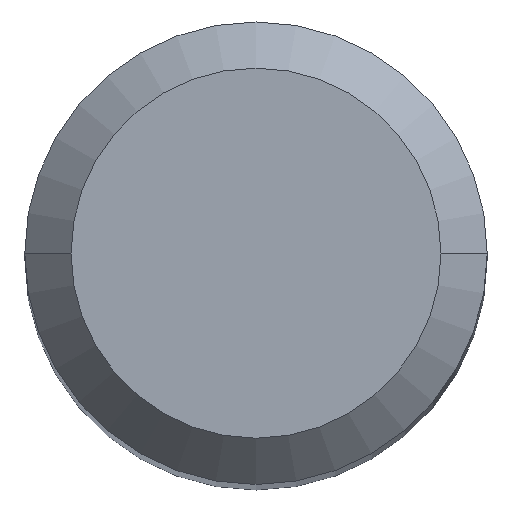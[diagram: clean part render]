
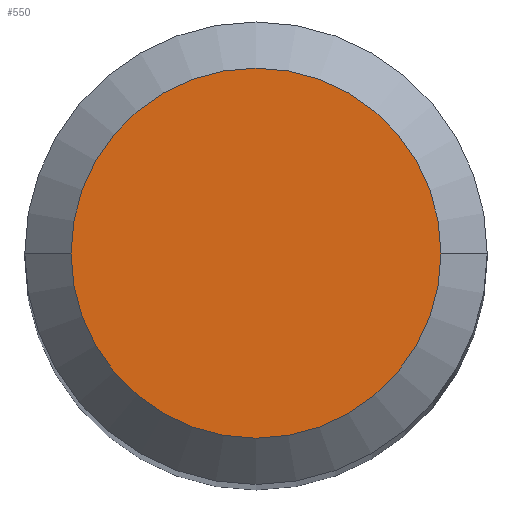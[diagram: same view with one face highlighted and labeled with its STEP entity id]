
A CAD part, top view. The second image highlights one B-rep face of the part: STEP entity #550.
In plain terms, the highlighted planar face has unit normal (0, 0, 1).
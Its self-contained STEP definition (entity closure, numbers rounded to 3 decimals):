
#15 = DIRECTION ( 'NONE',  ( -1., 0., 0. ) ) ;
#54 = CARTESIAN_POINT ( 'NONE',  ( 0., 0., 0. ) ) ;
#103 = CIRCLE ( 'NONE', #266, 2.4 ) ;
#115 = PLANE ( 'NONE',  #222 ) ;
#222 = AXIS2_PLACEMENT_3D ( 'NONE', #317, #314, #312 ) ;
#244 = EDGE_CURVE ( 'NONE', #298, #494, #103, .T. ) ;
#266 = AXIS2_PLACEMENT_3D ( 'NONE', #456, #615, #507 ) ;
#298 = VERTEX_POINT ( 'NONE', #468 ) ;
#312 = DIRECTION ( 'NONE',  ( 1., 0., 0. ) ) ;
#314 = DIRECTION ( 'NONE',  ( 0., 0., 1. ) ) ;
#317 = CARTESIAN_POINT ( 'NONE',  ( 0., 2.4, 0. ) ) ;
#346 = ORIENTED_EDGE ( 'NONE', *, *, #353, .F. ) ;
#353 = EDGE_CURVE ( 'NONE', #494, #298, #397, .T. ) ;
#397 = CIRCLE ( 'NONE', #457, 2.4 ) ;
#456 = CARTESIAN_POINT ( 'NONE',  ( 0., 0., 0. ) ) ;
#457 = AXIS2_PLACEMENT_3D ( 'NONE', #54, #482, #15 ) ;
#468 = CARTESIAN_POINT ( 'NONE',  ( -2.4, 0., 0. ) ) ;
#482 = DIRECTION ( 'NONE',  ( 0., 0., -1. ) ) ;
#494 = VERTEX_POINT ( 'NONE', #539 ) ;
#507 = DIRECTION ( 'NONE',  ( -1., 0., 0. ) ) ;
#539 = CARTESIAN_POINT ( 'NONE',  ( 2.4, 0., 0. ) ) ;
#542 = ORIENTED_EDGE ( 'NONE', *, *, #244, .F. ) ;
#550 = ADVANCED_FACE ( 'NONE', ( #594 ), #115, .T. ) ;
#572 = EDGE_LOOP ( 'NONE', ( #542, #346 ) ) ;
#594 = FACE_OUTER_BOUND ( 'NONE', #572, .T. ) ;
#615 = DIRECTION ( 'NONE',  ( 0., 0., -1. ) ) ;
